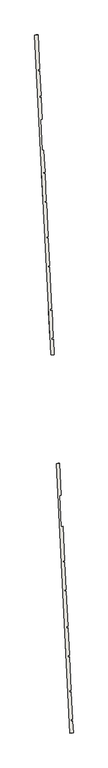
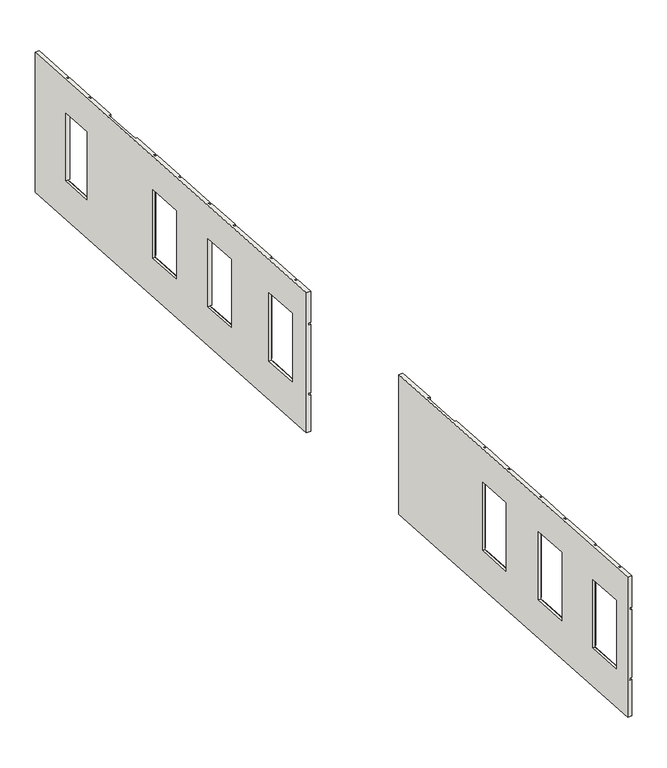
"""IFC4 building model written with IfcOpenShell, lengths in millimetres: wall geometry, kamposite1 : kamposite."""

from ifc_helpers import new_model, si_unit, origin, place, context, project, spatial, faceted_brep, source, transform, mapped, element, save


def wall_efae7c4e(model_context):
    return source(origin(), model_context, "Body", "Brep", [
        faceted_brep([(13372.7715568, -13203.3324529, 9500.0), (13353.306831, -12820.9275904, 9500.0), (13353.306831, -12820.9275904, 10411.5733633), (13372.7715568, -13203.3324529, 10411.5733633), (13353.306831, -12820.9275904, 13000.0), (13372.7715568, -13203.3324529, 13000.0), (13372.7715568, -13203.3324529, 12220.5733633), (13353.306831, -12820.9275904, 12220.5733633), (13094.4833823, -7736.0706906, 13000.0), (13139.1735864, -8614.0564136, 13000.0), (13139.1735864, -8614.0564136, 12220.5733633), (13094.4833823, -7736.0706906, 12220.5733633), (13141.7153374, -8663.9917669, 13000.0), (13199.2035253, -9793.4072435, 13000.0), (13199.2035253, -9793.4072435, 12220.5733633), (13141.7153374, -8663.9917669, 12220.5733633), (13201.7452764, -9843.3425967, 13000.0), (13246.4354805, -10721.3283197, 13000.0), (13246.4354805, -10721.3283197, 12220.5733633), (13201.7452764, -9843.3425967, 12220.5733633), (13248.9772315, -10771.2636729, 13000.0), (13303.5331248, -11843.0711609, 13000.0), (13303.5331248, -11843.0711609, 12220.5733633), (13248.9772315, -10771.2636729, 12220.5733633), (13306.0748759, -11893.0065142, 13000.0), (13350.76508, -12770.9922372, 13000.0), (13350.76508, -12770.9922372, 12220.5733633), (13306.0748759, -11893.0065142, 12220.5733633), (13139.1735864, -8614.0564136, 9500.0), (13094.4833823, -7736.0706906, 9500.0), (13094.4833823, -7736.0706906, 10411.5733633), (13139.1735864, -8614.0564136, 10411.5733633), (13199.2035253, -9793.4072435, 9500.0), (13141.7153374, -8663.9917669, 9500.0), (13141.7153374, -8663.9917669, 10411.5733633), (13199.2035253, -9793.4072435, 10411.5733633), (13246.4354805, -10721.3283197, 9500.0), (13201.7452764, -9843.3425967, 9500.0), (13201.7452764, -9843.3425967, 10411.5733633), (13246.4354805, -10721.3283197, 10411.5733633), (13303.5331248, -11843.0711609, 9500.0), (13248.9772315, -10771.2636729, 9500.0), (13248.9772315, -10771.2636729, 10411.5733633), (13303.5331248, -11843.0711609, 10411.5733633), (13350.76508, -12770.9922372, 9500.0), (13306.0748759, -11893.0065142, 9500.0), (13306.0748759, -11893.0065142, 10411.5733633), (13350.76508, -12770.9922372, 10411.5733633), (13350.6602996, -12768.9337164, 12170.0), (13306.0748759, -11893.0065142, 12170.0), (13306.0748759, -11893.0065142, 12170.5733633), (13350.76508, -12770.9922372, 12170.5733633), (13350.76508, -12770.9922372, 10461.5733633), (13350.6602996, -12768.9337164, 10461.5733633), (13246.4354805, -10721.3283197, 12170.0), (13201.7452764, -9843.3425967, 12170.0), (13201.7452764, -9843.3425967, 12170.5733633), (13246.4354805, -10721.3283197, 12170.5733633), (13139.1735864, -8614.0564136, 12170.0), (13094.4833823, -7736.0706906, 12170.0), (13094.4833823, -7736.0706906, 12170.5733633), (13139.1735864, -8614.0564136, 12170.5733633), (12933.6170031, -4575.6827045, 9500.0), (12933.6170031, -4575.6827045, 10411.5733633), (12985.7398324, -5599.6901091, 10411.5733633), (12985.7398324, -5599.6901091, 9500.0), (12933.6170031, -4575.6827045, 12220.5733633), (12933.6170031, -4575.6827045, 13000.0), (12985.7398324, -5599.6901091, 13000.0), (12985.7398324, -5599.6901091, 12220.5733633), (12933.6170031, -4575.6827045, 10461.5733633), (12933.6170031, -4575.6827045, 12170.5733633), (12985.7398324, -5599.6901091, 12170.5733633), (12985.7398324, -5599.6901091, 10461.5733633), (13091.9416312, -7686.1353374, 10411.5733633), (13091.9416312, -7686.1353374, 9500.0), (13036.3776474, -6594.5228575, 9500.0), (13036.3776474, -6594.5228575, 10411.5733633), (13091.9416312, -7686.1353374, 13000.0), (13091.9416312, -7686.1353374, 12220.5733633), (13036.3776474, -6594.5228575, 12220.5733633), (13036.3776474, -6594.5228575, 13000.0), (13091.9416312, -7686.1353374, 12170.5733633), (13091.9416312, -7686.1353374, 10461.5733633), (13036.3776474, -6594.5228575, 10461.5733633), (13036.3776474, -6594.5228575, 12170.5733633), (13199.2035253, -9793.4072435, 12170.5733633), (13199.2035253, -9793.4072435, 10461.5733633), (13141.7153374, -8663.9917669, 10461.5733633), (13141.7153374, -8663.9917669, 12170.5733633), (13303.5331248, -11843.0711609, 12170.5733633), (13303.5331248, -11843.0711609, 10461.5733633), (13248.9772315, -10771.2636729, 10461.5733633), (13248.9772315, -10771.2636729, 12170.5733633), (13372.7715568, -13203.3324529, 12170.5733633), (13372.7715568, -13203.3324529, 10461.5733633), (13353.306831, -12820.9275904, 10461.5733633), (13353.306831, -12820.9275904, 12170.5733633), (12833.7462967, -4580.7662066, 13000.0), (12833.7462967, -4580.7662066, 9500.0), (13272.9008504, -13208.415955, 9500.0), (13272.9008504, -13208.415955, 13000.0), (13206.0547747, -11895.1550017, 12170.0), (13250.7895931, -12774.0172185, 12170.0), (13250.7895931, -12774.0172185, 10460.0), (13206.0547747, -11895.1550017, 10460.0), (13101.8429819, -9847.8055195, 12170.0), (13146.5778003, -10726.6677363, 12170.0), (13146.5778003, -10726.6677363, 10460.0), (13101.8429819, -9847.8055195, 10460.0), (12994.5810878, -7740.5336135, 12170.0), (13039.3159062, -8619.3958302, 12170.0), (13039.3159062, -8619.3958302, 10460.0), (12994.5810878, -7740.5336135, 10460.0), (13303.3714778, -12823.4693414, 13000.0), (13300.8297268, -12773.5339882, 13000.0), (13256.1395226, -11895.5482652, 13000.0), (13253.5977716, -11845.612912, 13000.0), (13199.0418783, -10773.805424, 13000.0), (13196.5001272, -10723.8700707, 13000.0), (13151.8099231, -9845.8843478, 13000.0), (13149.2681721, -9795.9489945, 13000.0), (13091.7799842, -8666.5335179, 13000.0), (13089.2382332, -8616.5981647, 13000.0), (13044.5480291, -7738.6124417, 13000.0), (13042.006278, -7688.6770885, 13000.0), (12986.4422941, -6597.0646086, 13000.0), (12935.8044792, -5602.2318601, 13000.0), (13322.8362036, -13205.874204, 10411.5733633), (13322.8362036, -13205.874204, 10461.5733633), (13322.8362036, -13205.874204, 12170.5733633), (13322.8362036, -13205.874204, 12220.5733633), (12935.8044792, -5602.2318601, 9500.0), (12986.4422941, -6597.0646086, 9500.0), (13042.006278, -7688.6770885, 9500.0), (13044.5480291, -7738.6124417, 9500.0), (13089.2382332, -8616.5981647, 9500.0), (13091.7799842, -8666.5335179, 9500.0), (13149.2681721, -9795.9489945, 9500.0), (13151.8099231, -9845.8843478, 9500.0), (13196.5001272, -10723.8700707, 9500.0), (13199.0418783, -10773.805424, 9500.0), (13253.5977716, -11845.612912, 9500.0), (13256.1395226, -11895.5482652, 9500.0), (13300.8297268, -12773.5339882, 9500.0), (13303.3714778, -12823.4693414, 9500.0), (12883.6816499, -4578.2244556, 12220.5733633), (12883.6816499, -4578.2244556, 12170.5733633), (12883.6816499, -4578.2244556, 10461.5733633), (12883.6816499, -4578.2244556, 10411.5733633), (13255.9901279, -11892.6132507, 10460.0), (13255.9901279, -11892.6132507, 12170.0), (13300.7249463, -12771.4754674, 10460.0), (13300.7249463, -12771.4754674, 10461.5733633), (13256.1395226, -11895.5482652, 12170.0), (13151.7783351, -9845.2637685, 10460.0), (13151.7783351, -9845.2637685, 12170.0), (13196.5131535, -10724.1259852, 10460.0), (13196.5131535, -10724.1259852, 12170.0), (13151.8099231, -9845.8843478, 12170.0), (13196.5001272, -10723.8700707, 12170.0), (13044.5164411, -7737.9918624, 10460.0), (13044.5164411, -7737.9918624, 12170.0), (13089.2512594, -8616.8540792, 10460.0), (13089.2512594, -8616.8540792, 12170.0), (13044.5480291, -7738.6124417, 12170.0), (13089.2382332, -8616.5981647, 12170.0), (13044.5480291, -7738.6124417, 12220.5733633), (13089.2382332, -8616.5981647, 12220.5733633), (13091.7799842, -8666.5335179, 12220.5733633), (13149.2681721, -9795.9489945, 12220.5733633), (13151.8099231, -9845.8843478, 12220.5733633), (13196.5001272, -10723.8700707, 12220.5733633), (13199.0418783, -10773.805424, 12220.5733633), (13253.5977716, -11845.612912, 12220.5733633), (13256.1395226, -11895.5482652, 12220.5733633), (13300.8297268, -12773.5339882, 12220.5733633), (13303.3714778, -12823.4693414, 12220.5733633), (13303.3714778, -12823.4693414, 12170.5733633), (13303.3714778, -12823.4693414, 10461.5733633), (13303.3714778, -12823.4693414, 10411.5733633), (13300.8297268, -12773.5339882, 10411.5733633), (13256.1395226, -11895.5482652, 10411.5733633), (13253.5977716, -11845.612912, 10411.5733633), (13199.0418783, -10773.805424, 10411.5733633), (13196.5001272, -10723.8700707, 10411.5733633), (13151.8099231, -9845.8843478, 10411.5733633), (13149.2681721, -9795.9489945, 10411.5733633), (13091.7799842, -8666.5335179, 10411.5733633), (13089.2382332, -8616.5981647, 10411.5733633), (13044.5480291, -7738.6124417, 10411.5733633), (13042.006278, -7688.6770885, 10411.5733633), (12986.4422941, -6597.0646086, 10411.5733633), (12935.8044792, -5602.2318601, 10411.5733633), (12935.8044792, -5602.2318601, 10461.5733633), (12935.8044792, -5602.2318601, 12170.5733633), (12935.8044792, -5602.2318601, 12220.5733633), (12986.4422941, -6597.0646086, 12220.5733633), (13042.006278, -7688.6770885, 12220.5733633), (13300.8297268, -12773.5339882, 10461.5733633), (13300.8297268, -12773.5339882, 12170.5733633), (13256.1395226, -11895.5482652, 12170.5733633), (13196.5001272, -10723.8700707, 12170.5733633), (13151.8099231, -9845.8843478, 12170.5733633), (13089.2382332, -8616.5981647, 12170.5733633), (13044.5480291, -7738.6124417, 12170.5733633), (13091.7799842, -8666.5335179, 12170.5733633), (13091.7799842, -8666.5335179, 10461.5733633), (13149.2681721, -9795.9489945, 10461.5733633), (13149.2681721, -9795.9489945, 12170.5733633), (13199.0418783, -10773.805424, 12170.5733633), (13199.0418783, -10773.805424, 10461.5733633), (13253.5977716, -11845.612912, 10461.5733633), (13253.5977716, -11845.612912, 12170.5733633), (13042.006278, -7688.6770885, 12170.5733633), (12986.4422941, -6597.0646086, 12170.5733633), (12986.4422941, -6597.0646086, 10461.5733633), (13042.006278, -7688.6770885, 10461.5733633)], [[[0, 1, 2, 3]], [[4, 5, 6, 7]], [[8, 9, 10, 11]], [[12, 13, 14, 15]], [[16, 17, 18, 19]], [[20, 21, 22, 23]], [[24, 25, 26, 27]], [[28, 29, 30, 31]], [[32, 33, 34, 35]], [[36, 37, 38, 39]], [[40, 41, 42, 43]], [[44, 45, 46, 47]], [[48, 49, 50, 51, 52, 53]], [[54, 55, 56, 57]], [[58, 59, 60, 61]], [[62, 63, 64, 65]], [[66, 67, 68, 69]], [[70, 71, 72, 73]], [[74, 75, 76, 77]], [[78, 79, 80, 81]], [[82, 83, 84, 85]], [[86, 87, 88, 89]], [[90, 91, 92, 93]], [[94, 95, 96, 97]], [[98, 99, 100, 101], [102, 103, 104, 105], [106, 107, 108, 109], [110, 111, 112, 113]], [[98, 101, 5, 4, 114, 115, 25, 24, 116, 117, 21, 20, 118, 119, 17, 16, 120, 121, 13, 12, 122, 123, 9, 8, 124, 125, 78, 81, 126, 127, 68, 67]], [[101, 100, 0, 3, 128, 129, 95, 94, 130, 131, 6, 5]], [[100, 99, 62, 65, 132, 133, 76, 75, 134, 135, 29, 28, 136, 137, 33, 32, 138, 139, 37, 36, 140, 141, 41, 40, 142, 143, 45, 44, 144, 145, 1, 0]], [[99, 98, 67, 66, 146, 147, 71, 70, 148, 149, 63, 62]], [[102, 105, 150, 151]], [[105, 104, 152, 150]], [[104, 103, 48, 53, 153, 152]], [[103, 102, 151, 154, 49, 48]], [[106, 109, 155, 156]], [[109, 108, 157, 155]], [[108, 107, 158, 157]], [[107, 106, 156, 159, 55, 54, 160, 158]], [[110, 113, 161, 162]], [[113, 112, 163, 161]], [[112, 111, 164, 163]], [[111, 110, 162, 165, 59, 58, 166, 164]], [[125, 124, 167, 168, 123, 122, 169, 170, 121, 120, 171, 172, 119, 118, 173, 174, 117, 116, 175, 176, 115, 114, 177, 131, 130, 178, 179, 129, 128, 180, 145, 144, 181, 182, 143, 142, 183, 184, 141, 140, 185, 186, 139, 138, 187, 188, 137, 136, 189, 190, 135, 134, 191, 192, 133, 132, 193, 149, 148, 194, 195, 147, 146, 196, 127, 126, 197, 198], [154, 151, 150, 152, 153, 199, 200, 201], [159, 156, 155, 157, 158, 160, 202, 203], [165, 162, 161, 163, 164, 166, 204, 205], [206, 207, 208, 209], [210, 211, 212, 213], [214, 215, 216, 217]], [[124, 8, 11, 167]], [[29, 135, 190, 30]], [[59, 165, 205, 60]], [[83, 82, 214, 217]], [[78, 125, 198, 79]], [[134, 75, 74, 191]], [[89, 88, 207, 206]], [[122, 12, 15, 169]], [[33, 137, 188, 34]], [[9, 123, 168, 10]], [[136, 28, 31, 189]], [[166, 58, 61, 204]], [[120, 16, 19, 171]], [[37, 139, 186, 38]], [[55, 159, 203, 56]], [[87, 86, 209, 208]], [[13, 121, 170, 14]], [[138, 32, 35, 187]], [[93, 92, 211, 210]], [[118, 20, 23, 173]], [[41, 141, 184, 42]], [[17, 119, 172, 18]], [[140, 36, 39, 185]], [[160, 54, 57, 202]], [[116, 24, 27, 175]], [[45, 143, 182, 46]], [[49, 154, 201, 50]], [[91, 90, 213, 212]], [[21, 117, 174, 22]], [[142, 40, 43, 183]], [[97, 96, 179, 178]], [[114, 4, 7, 177]], [[1, 145, 180, 2]], [[52, 51, 200, 199]], [[25, 115, 176, 26]], [[144, 44, 47, 181]], [[148, 70, 73, 194]], [[199, 153, 53, 52]], [[208, 207, 88, 87]], [[212, 211, 92, 91]], [[83, 217, 216, 84]], [[129, 179, 96, 95]], [[63, 149, 193, 64]], [[182, 181, 47, 46]], [[184, 183, 43, 42]], [[186, 185, 39, 38]], [[188, 187, 35, 34]], [[190, 189, 31, 30]], [[191, 74, 77, 192]], [[180, 128, 3, 2]], [[146, 66, 69, 196]], [[168, 167, 11, 10]], [[170, 169, 15, 14]], [[172, 171, 19, 18]], [[174, 173, 23, 22]], [[176, 175, 27, 26]], [[79, 198, 197, 80]], [[131, 177, 7, 6]], [[71, 147, 195, 72]], [[201, 200, 51, 50]], [[203, 202, 57, 56]], [[205, 204, 61, 60]], [[206, 209, 86, 89]], [[210, 213, 90, 93]], [[214, 82, 85, 215]], [[178, 130, 94, 97]], [[133, 192, 77, 76]], [[197, 126, 81, 80]], [[216, 215, 85, 84]], [[193, 132, 65, 64]], [[195, 194, 73, 72]], [[127, 196, 69, 68]]]),
        faceted_brep([(12334.7985206, 7188.7316375, 12160.0), (12294.384679, 7982.7037538, 12160.0), (12294.384679, 7982.7037538, 10461.5733633), (12294.2460013, 7985.4282216, 10461.5733633), (12294.2460013, 7985.4282216, 12170.5733633), (12334.8694038, 7187.3390638, 12170.5733633), (12334.8694038, 7187.3390638, 10461.5733633), (12334.7985206, 7188.7316375, 10461.5733633), (12731.730894, -609.4192918, 13000.0), (12756.4224718, -1094.5111191, 13000.0), (12756.4224718, -1094.5111191, 12220.5733633), (12731.730894, -609.4192918, 12220.5733633), (12684.4989388, 318.5017844, 13000.0), (12729.1891429, -559.4839386, 13000.0), (12729.1891429, -559.4839386, 12220.5733633), (12684.4989388, 318.5017844, 12220.5733633), (12614.0478206, 1702.5875625, 13000.0), (12681.9571878, 368.4371376, 13000.0), (12681.9571878, 368.4371376, 12220.5733633), (12614.0478206, 1702.5875625, 12220.5733633), (12566.8158655, 2630.5086387, 13000.0), (12611.5060696, 1752.5229157, 13000.0), (12611.5060696, 1752.5229157, 12220.5733633), (12566.8158655, 2630.5086387, 12220.5733633), (12509.0735025, 3764.9176506, 13000.0), (12564.2741144, 2680.4439919, 13000.0), (12564.2741144, 2680.4439919, 12220.5733633), (12509.0735025, 3764.9176506, 12220.5733633), (12461.8415473, 4692.8387269, 13000.0), (12506.5317514, 3814.8530039, 13000.0), (12506.5317514, 3814.8530039, 12220.5733633), (12461.8415473, 4692.8387269, 12220.5733633), (12235.5361304, 9138.844937, 13000.0), (12291.7042503, 8035.3635748, 13000.0), (12291.7042503, 8035.3635748, 12220.5733633), (12235.5361304, 9138.844937, 12220.5733633), (12294.2460013, 7985.4282216, 13000.0), (12334.8694038, 7187.3390638, 13000.0), (12334.8694038, 7187.3390638, 12220.5733633), (12294.2460013, 7985.4282216, 12220.5733633), (12756.4224718, -1094.5111191, 9500.0), (12731.730894, -609.4192918, 9500.0), (12731.730894, -609.4192918, 10411.5733633), (12756.4224718, -1094.5111191, 10411.5733633), (12729.1891429, -559.4839386, 9500.0), (12684.4989388, 318.5017844, 9500.0), (12684.4989388, 318.5017844, 10411.5733633), (12729.1891429, -559.4839386, 10411.5733633), (12681.9571878, 368.4371376, 9500.0), (12614.0478206, 1702.5875625, 9500.0), (12614.0478206, 1702.5875625, 10411.5733633), (12681.9571878, 368.4371376, 10411.5733633), (12611.5060696, 1752.5229157, 9500.0), (12566.8158655, 2630.5086387, 9500.0), (12566.8158655, 2630.5086387, 10411.5733633), (12611.5060696, 1752.5229157, 10411.5733633), (12564.2741144, 2680.4439919, 9500.0), (12509.0735025, 3764.9176506, 9500.0), (12509.0735025, 3764.9176506, 10411.5733633), (12564.2741144, 2680.4439919, 10411.5733633), (12506.5317514, 3814.8530039, 9500.0), (12461.8415473, 4692.8387269, 9500.0), (12461.8415473, 4692.8387269, 10411.5733633), (12506.5317514, 3814.8530039, 10411.5733633), (12291.7042503, 8035.3635748, 9500.0), (12235.5361304, 9138.844937, 9500.0), (12235.5361304, 9138.844937, 12170.5733633), (12291.7042503, 8035.3635748, 12170.5733633), (12291.7042503, 8035.3635748, 10461.5733633), (12235.558487, 9138.4057197, 10461.5733633), (12235.558487, 9138.4057197, 10411.5733633), (12291.7042503, 8035.3635748, 10411.5733633), (12334.8694038, 7187.3390638, 9500.0), (12294.2460013, 7985.4282216, 9500.0), (12294.2460013, 7985.4282216, 10411.5733633), (12334.8694038, 7187.3390638, 10411.5733633), (12729.1891429, -559.4839386, 12170.0), (12684.4989388, 318.5017844, 12170.0), (12684.4989388, 318.5017844, 12170.5733633), (12729.1891429, -559.4839386, 12170.5733633), (12611.5060696, 1752.5229157, 12170.0), (12567.0384526, 2626.1356827, 12170.0), (12567.0384526, 2626.1356827, 10461.5733633), (12566.8158655, 2630.5086387, 10461.5733633), (12566.8158655, 2630.5086387, 12170.5733633), (12611.5060696, 1752.5229157, 12170.5733633), (12506.5317514, 3814.8530039, 12170.0), (12461.8415473, 4692.8387269, 12170.0), (12461.8415473, 4692.8387269, 12170.5733633), (12506.5317514, 3814.8530039, 12170.5733633), (12756.4224718, -1094.5111191, 12170.5733633), (12756.4224718, -1094.5111191, 10461.5733633), (12731.730894, -609.4192918, 10461.5733633), (12731.730894, -609.4192918, 12170.5733633), (12681.9571878, 368.4371376, 12170.5733633), (12681.9571878, 368.4371376, 10461.5733633), (12614.0478206, 1702.5875625, 10461.5733633), (12614.0478206, 1702.5875625, 12170.5733633), (12564.2741144, 2680.4439919, 12170.5733633), (12564.2741144, 2680.4439919, 10461.5733633), (12509.0735025, 3764.9176506, 10461.5733633), (12509.0735025, 3764.9176506, 12170.5733633), (12459.2997963, 4742.7740801, 10411.5733633), (12459.2997963, 4742.7740801, 9500.0), (12423.674383, 5442.6725211, 9500.0), (12423.674383, 5442.6725211, 10411.5733633), (12459.2997963, 4742.7740801, 12170.5733633), (12459.2997963, 4742.7740801, 10461.5733633), (12423.674383, 5442.6725211, 10461.5733633), (12423.674383, 5442.6725211, 12170.5733633), (12459.2997963, 4742.7740801, 13000.0), (12459.2997963, 4742.7740801, 12220.5733633), (12423.674383, 5442.6725211, 12220.5733633), (12423.674383, 5442.6725211, 13000.0), (12337.4111548, 7137.4037105, 9500.0), (12337.4111548, 7137.4037105, 10411.5733633), (12373.0365681, 6437.5052695, 10411.5733633), (12373.0365681, 6437.5052695, 9500.0), (12337.4111548, 7137.4037105, 10461.5733633), (12337.4111548, 7137.4037105, 12170.5733633), (12373.0365681, 6437.5052695, 12170.5733633), (12373.0365681, 6437.5052695, 10461.5733633), (12337.4111548, 7137.4037105, 12220.5733633), (12337.4111548, 7137.4037105, 13000.0), (12373.0365681, 6437.5052695, 13000.0), (12373.0365681, 6437.5052695, 12220.5733633), (12135.665424, 9133.7614349, 13000.0), (12135.665424, 9133.7614349, 9500.0), (12656.5517653, -1099.5946212, 9500.0), (12656.5517653, -1099.5946212, 13000.0), (12194.5139726, 7977.6202517, 12160.0), (12234.9278142, 7183.6481354, 12160.0), (12234.9278142, 7183.6481354, 10460.0), (12194.5139726, 7977.6202517, 10460.0), (12584.5966444, 314.0388616, 12170.0), (12629.3314627, -564.8233551, 12170.0), (12629.3314627, -564.8233551, 10460.0), (12584.5966444, 314.0388616, 10460.0), (12467.1677461, 2621.0521806, 12170.0), (12511.9025645, 1742.1899638, 12170.0), (12511.9025645, 1742.1899638, 10460.0), (12467.1677461, 2621.0521806, 10460.0), (12361.9392529, 4688.375804, 12170.0), (12406.6740712, 3809.5135873, 12170.0), (12406.6740712, 3809.5135873, 10460.0), (12361.9392529, 4688.375804, 10460.0), (12681.7955408, -611.9610428, 13000.0), (12679.2537897, -562.0256896, 13000.0), (12634.5635856, 315.9600334, 13000.0), (12632.0218345, 365.8953866, 13000.0), (12564.1124674, 1700.0458114, 13000.0), (12561.5707163, 1749.9811647, 13000.0), (12516.8805122, 2627.9668877, 13000.0), (12514.3387612, 2677.9022409, 13000.0), (12459.1381493, 3762.3758996, 13000.0), (12456.5963982, 3812.3112528, 13000.0), (12411.9061941, 4690.2969758, 13000.0), (12409.364443, 4740.232329, 13000.0), (12373.7390298, 5440.13077, 13000.0), (12323.1012148, 6434.9635185, 13000.0), (12287.4758016, 7134.8619595, 13000.0), (12284.9340506, 7184.7973127, 13000.0), (12244.3106481, 7982.8864705, 13000.0), (12241.7688971, 8032.8218238, 13000.0), (12706.4871185, -1097.0528701, 10411.5733633), (12706.4871185, -1097.0528701, 10461.5733633), (12706.4871185, -1097.0528701, 12170.5733633), (12706.4871185, -1097.0528701, 12220.5733633), (12241.7688971, 8032.8218238, 9500.0), (12244.3106481, 7982.8864705, 9500.0), (12284.9340506, 7184.7973127, 9500.0), (12287.4758016, 7134.8619595, 9500.0), (12323.1012148, 6434.9635185, 9500.0), (12373.7390298, 5440.13077, 9500.0), (12409.364443, 4740.232329, 9500.0), (12411.9061941, 4690.2969758, 9500.0), (12456.5963982, 3812.3112528, 9500.0), (12459.1381493, 3762.3758996, 9500.0), (12514.3387612, 2677.9022409, 9500.0), (12516.8805122, 2627.9668877, 9500.0), (12561.5707163, 1749.9811647, 9500.0), (12564.1124674, 1700.0458114, 9500.0), (12632.0218345, 365.8953866, 9500.0), (12634.5635856, 315.9600334, 9500.0), (12679.2537897, -562.0256896, 9500.0), (12681.7955408, -611.9610428, 9500.0), (12185.6007772, 9136.3031859, 12220.5733633), (12185.6007772, 9136.3031859, 12170.5733633), (12244.4493258, 7980.1620027, 10460.0), (12244.4493258, 7980.1620027, 10461.5733633), (12284.8631674, 7186.1898865, 10460.0), (12284.8631674, 7186.1898865, 10461.5733633), (12634.5319976, 316.5806127, 10460.0), (12634.5319976, 316.5806127, 12170.0), (12679.266816, -562.2816041, 10460.0), (12679.266816, -562.2816041, 12170.0), (12634.5635856, 315.9600334, 12170.0), (12679.2537897, -562.0256896, 12170.0), (12517.1030993, 2623.5939316, 10460.0), (12517.1030993, 2623.5939316, 10461.5733633), (12561.8379177, 1744.7317149, 10460.0), (12561.8379177, 1744.7317149, 12170.0), (12561.5707163, 1749.9811647, 12170.0), (12411.8746061, 4690.9175551, 10460.0), (12411.8746061, 4690.9175551, 12170.0), (12456.6094245, 3812.0553383, 10460.0), (12456.6094245, 3812.0553383, 12170.0), (12411.9061941, 4690.2969758, 12170.0), (12456.5963982, 3812.3112528, 12170.0), (12634.5635856, 315.9600334, 12220.5733633), (12679.2537897, -562.0256896, 12220.5733633), (12681.7955408, -611.9610428, 12220.5733633), (12681.7955408, -611.9610428, 12170.5733633), (12681.7955408, -611.9610428, 10461.5733633), (12681.7955408, -611.9610428, 10411.5733633), (12679.2537897, -562.0256896, 10411.5733633), (12634.5635856, 315.9600334, 10411.5733633), (12632.0218345, 365.8953866, 10411.5733633), (12564.1124674, 1700.0458114, 10411.5733633), (12561.5707163, 1749.9811647, 10411.5733633), (12516.8805122, 2627.9668877, 10411.5733633), (12514.3387612, 2677.9022409, 10411.5733633), (12459.1381493, 3762.3758996, 10411.5733633), (12456.5963982, 3812.3112528, 10411.5733633), (12411.9061941, 4690.2969758, 10411.5733633), (12409.364443, 4740.232329, 10411.5733633), (12373.7390298, 5440.13077, 10411.5733633), (12323.1012148, 6434.9635185, 10411.5733633), (12287.4758016, 7134.8619595, 10411.5733633), (12284.9340506, 7184.7973127, 10411.5733633), (12244.3106481, 7982.8864705, 10411.5733633), (12241.7688971, 8032.8218238, 10411.5733633), (12185.6231337, 9135.8639687, 10411.5733633), (12185.6231337, 9135.8639687, 10461.5733633), (12241.7688971, 8032.8218238, 10461.5733633), (12241.7688971, 8032.8218238, 12170.5733633), (12241.7688971, 8032.8218238, 12220.5733633), (12244.3106481, 7982.8864705, 12220.5733633), (12284.9340506, 7184.7973127, 12220.5733633), (12287.4758016, 7134.8619595, 12220.5733633), (12323.1012148, 6434.9635185, 12220.5733633), (12373.7390298, 5440.13077, 12220.5733633), (12409.364443, 4740.232329, 12220.5733633), (12411.9061941, 4690.2969758, 12220.5733633), (12456.5963982, 3812.3112528, 12220.5733633), (12459.1381493, 3762.3758996, 12220.5733633), (12514.3387612, 2677.9022409, 12220.5733633), (12516.8805122, 2627.9668877, 12220.5733633), (12561.5707163, 1749.9811647, 12220.5733633), (12564.1124674, 1700.0458114, 12220.5733633), (12632.0218345, 365.8953866, 12220.5733633), (12679.2537897, -562.0256896, 12170.5733633), (12634.5635856, 315.9600334, 12170.5733633), (12561.5707163, 1749.9811647, 12170.5733633), (12516.8805122, 2627.9668877, 12170.5733633), (12516.8805122, 2627.9668877, 10461.5733633), (12456.5963982, 3812.3112528, 12170.5733633), (12411.9061941, 4690.2969758, 12170.5733633), (12632.0218345, 365.8953866, 10461.5733633), (12632.0218345, 365.8953866, 12170.5733633), (12564.1124674, 1700.0458114, 12170.5733633), (12564.1124674, 1700.0458114, 10461.5733633), (12514.3387612, 2677.9022409, 10461.5733633), (12514.3387612, 2677.9022409, 12170.5733633), (12459.1381493, 3762.3758996, 12170.5733633), (12459.1381493, 3762.3758996, 10461.5733633), (12409.364443, 4740.232329, 10461.5733633), (12409.364443, 4740.232329, 12170.5733633), (12373.7390298, 5440.13077, 12170.5733633), (12373.7390298, 5440.13077, 10461.5733633), (12244.3106481, 7982.8864705, 12170.5733633), (12244.3106481, 7982.8864705, 10461.5733633), (12284.9340506, 7184.7973127, 10461.5733633), (12284.9340506, 7184.7973127, 12170.5733633), (12287.4758016, 7134.8619595, 10461.5733633), (12323.1012148, 6434.9635185, 10461.5733633), (12323.1012148, 6434.9635185, 12170.5733633), (12287.4758016, 7134.8619595, 12170.5733633)], [[[0, 1, 2, 3, 4, 5, 6, 7]], [[8, 9, 10, 11]], [[12, 13, 14, 15]], [[16, 17, 18, 19]], [[20, 21, 22, 23]], [[24, 25, 26, 27]], [[28, 29, 30, 31]], [[32, 33, 34, 35]], [[36, 37, 38, 39]], [[40, 41, 42, 43]], [[44, 45, 46, 47]], [[48, 49, 50, 51]], [[52, 53, 54, 55]], [[56, 57, 58, 59]], [[60, 61, 62, 63]], [[64, 65, 66, 67, 68, 69, 70, 71]], [[72, 73, 74, 75]], [[76, 77, 78, 79]], [[80, 81, 82, 83, 84, 85]], [[86, 87, 88, 89]], [[90, 91, 92, 93]], [[94, 95, 96, 97]], [[98, 99, 100, 101]], [[102, 103, 104, 105]], [[106, 107, 108, 109]], [[110, 111, 112, 113]], [[114, 115, 116, 117]], [[118, 119, 120, 121]], [[122, 123, 124, 125]], [[126, 127, 128, 129], [130, 131, 132, 133], [134, 135, 136, 137], [138, 139, 140, 141], [142, 143, 144, 145]], [[126, 129, 9, 8, 146, 147, 13, 12, 148, 149, 17, 16, 150, 151, 21, 20, 152, 153, 25, 24, 154, 155, 29, 28, 156, 157, 110, 113, 158, 159, 124, 123, 160, 161, 37, 36, 162, 163, 33, 32]], [[129, 128, 40, 43, 164, 165, 91, 90, 166, 167, 10, 9]], [[128, 127, 65, 64, 168, 169, 73, 72, 170, 171, 114, 117, 172, 173, 104, 103, 174, 175, 61, 60, 176, 177, 57, 56, 178, 179, 53, 52, 180, 181, 49, 48, 182, 183, 45, 44, 184, 185, 41, 40]], [[127, 126, 32, 35, 186, 187, 66, 65]], [[130, 133, 188, 189, 2, 1]], [[133, 132, 190, 188]], [[132, 131, 0, 7, 191, 190]], [[1, 0, 131, 130]], [[134, 137, 192, 193]], [[137, 136, 194, 192]], [[136, 135, 195, 194]], [[135, 134, 193, 196, 77, 76, 197, 195]], [[138, 141, 198, 199, 82, 81]], [[141, 140, 200, 198]], [[140, 139, 201, 200]], [[139, 138, 81, 80, 202, 201]], [[142, 145, 203, 204]], [[145, 144, 205, 203]], [[144, 143, 206, 205]], [[143, 142, 204, 207, 87, 86, 208, 206]], [[149, 148, 209, 210, 147, 146, 211, 167, 166, 212, 213, 165, 164, 214, 185, 184, 215, 216, 183, 182, 217, 218, 181, 180, 219, 220, 179, 178, 221, 222, 177, 176, 223, 224, 175, 174, 225, 226, 173, 172, 227, 228, 171, 170, 229, 230, 169, 168, 231, 232, 233, 234, 235, 187, 186, 236, 163, 162, 237, 238, 161, 160, 239, 240, 159, 158, 241, 242, 157, 156, 243, 244, 155, 154, 245, 246, 153, 152, 247, 248, 151, 150, 249, 250], [196, 193, 192, 194, 195, 197, 251, 252], [201, 202, 253, 254, 255, 199, 198, 200], [207, 204, 203, 205, 206, 208, 256, 257], [258, 259, 260, 261], [262, 263, 264, 265], [266, 267, 268, 269], [270, 271, 189, 188, 190, 191, 272, 273], [274, 275, 276, 277]], [[148, 12, 15, 209]], [[45, 183, 216, 46]], [[77, 196, 252, 78]], [[95, 94, 259, 258]], [[17, 149, 250, 18]], [[182, 48, 51, 217]], [[93, 92, 213, 212]], [[146, 8, 11, 211]], [[41, 185, 214, 42]], [[13, 147, 210, 14]], [[184, 44, 47, 215]], [[197, 76, 79, 251]], [[84, 83, 255, 254]], [[152, 20, 23, 247]], [[53, 179, 220, 54]], [[99, 98, 263, 262]], [[25, 153, 246, 26]], [[178, 56, 59, 221]], [[97, 96, 261, 260]], [[150, 16, 19, 249]], [[49, 181, 218, 50]], [[21, 151, 248, 22]], [[180, 52, 55, 219]], [[202, 80, 85, 253]], [[156, 28, 31, 243]], [[61, 175, 224, 62]], [[87, 207, 257, 88]], [[107, 106, 267, 266]], [[110, 157, 242, 111]], [[174, 103, 102, 225]], [[101, 100, 265, 264]], [[154, 24, 27, 245]], [[57, 177, 222, 58]], [[29, 155, 244, 30]], [[176, 60, 63, 223]], [[208, 86, 89, 256]], [[4, 3, 271, 270]], [[162, 36, 39, 237]], [[73, 169, 230, 74]], [[68, 67, 235, 234]], [[33, 163, 236, 34]], [[168, 64, 71, 231]], [[119, 118, 274, 277]], [[160, 123, 122, 239]], [[114, 171, 228, 115]], [[6, 5, 273, 272]], [[37, 161, 238, 38]], [[170, 72, 75, 229]], [[214, 164, 43, 42]], [[216, 215, 47, 46]], [[218, 217, 51, 50]], [[220, 219, 55, 54]], [[222, 221, 59, 58]], [[224, 223, 63, 62]], [[230, 229, 75, 74]], [[225, 102, 105, 226]], [[115, 228, 227, 116]], [[70, 232, 231, 71]], [[165, 213, 92, 91]], [[199, 255, 83, 82]], [[258, 261, 96, 95]], [[262, 265, 100, 99]], [[189, 271, 3, 2]], [[272, 191, 7, 6]], [[107, 266, 269, 108]], [[274, 118, 121, 275]], [[233, 69, 68, 234]], [[212, 166, 90, 93]], [[252, 251, 79, 78]], [[254, 253, 85, 84]], [[257, 256, 89, 88]], [[260, 259, 94, 97]], [[264, 263, 98, 101]], [[270, 273, 5, 4]], [[267, 106, 109, 268]], [[119, 277, 276, 120]], [[187, 235, 67, 66]], [[210, 209, 15, 14]], [[167, 211, 11, 10]], [[238, 237, 39, 38]], [[244, 243, 31, 30]], [[246, 245, 27, 26]], [[248, 247, 23, 22]], [[250, 249, 19, 18]], [[111, 242, 241, 112]], [[239, 122, 125, 240]], [[236, 186, 35, 34]], [[173, 226, 105, 104]], [[241, 158, 113, 112]], [[269, 268, 109, 108]], [[227, 172, 117, 116]], [[159, 240, 125, 124]], [[276, 275, 121, 120]], [[233, 232, 70, 69]]]),
    ])


if __name__ == "__main__":
    model = new_model("IFC4")
    model_context = context("Model", 3, world=origin())
    ifc_project = project(units=[si_unit("LENGTHUNIT", "METRE", prefix="MILLI")], contexts=[model_context])
    site = spatial("IfcSite", under=ifc_project)
    building = spatial("IfcBuilding", under=site)
    placement = place(None, origin())
    wall_shape = wall_efae7c4e(model_context)
    element("IfcWall", 1, ObjectType="kamposite1 : kamposite", at=placement, inside=building, context=model_context, shape_type="MappedRepresentation", body=[
        mapped(wall_shape, transform((0.0, 0.0, 0.0), x_axis=(1.0, 0.0, 0.0), y_axis=(0.0, 1.0, 0.0), z_axis=(0.0, 0.0, 1.0))),
    ])
    save(model, "model.ifc")
